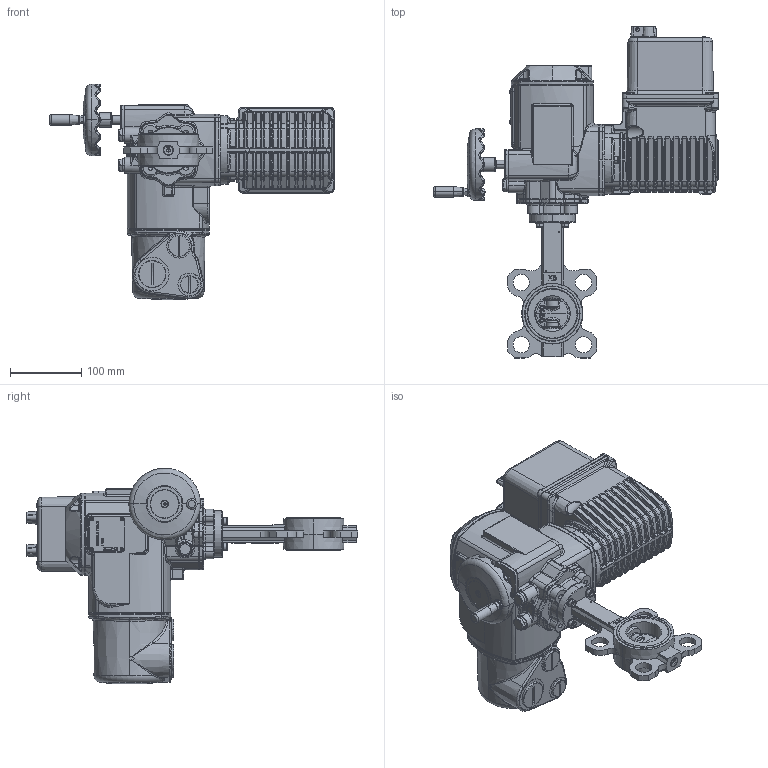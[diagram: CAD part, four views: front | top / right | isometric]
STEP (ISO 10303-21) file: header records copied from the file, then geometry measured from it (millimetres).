
FILE_DESCRIPTION (( 'STEP AP203' ), '1' );
FILE_NAME ('VPI-U24 DN50.step', '2016-09-29T16:16:25', ( 'TECOFI' ), ( '' ), 'SwSTEP 2.0', 'SolidWorks 2014', '' );
FILE_SCHEMA (( 'CONFIG_CONTROL_DESIGN' ));
Products named in the file (1): VPI-U24 DN50
Bounding box: 398.75 x 464.55 x 301.64 mm (x, y, z)
Volume: 7237781.8 mm3; surface area: 578899.8 mm2
Topology: 47 solids, 48 shells, 4320 faces, 10489 edges, 6246 vertices
Faces by surface type: bspline 1384, plane 999, cylinder 955, cone 484, torus 457, sphere 41
Entity records: 194468 total; most frequent: CARTESIAN_POINT 104575, ORIENTED_EDGE 20676, DIRECTION 16024, EDGE_CURVE 10338, AXIS2_PLACEMENT_3D 6268, VERTEX_POINT 6246, EDGE_LOOP 4500, ADVANCED_FACE 4320
